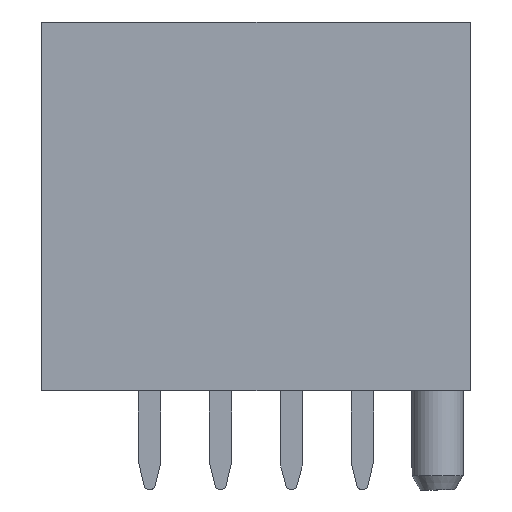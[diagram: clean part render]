
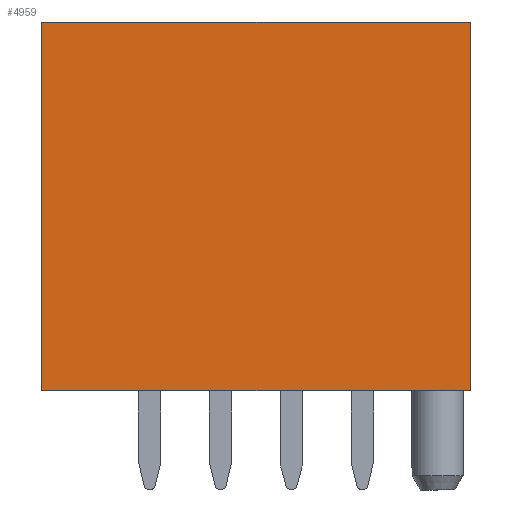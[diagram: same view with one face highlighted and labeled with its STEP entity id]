
A CAD part, left-side view. The second image highlights one B-rep face of the part: STEP entity #4959.
In plain terms, the highlighted planar face has unit normal (-1, 0, 0).
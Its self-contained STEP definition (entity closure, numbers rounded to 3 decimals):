
#36 = CARTESIAN_POINT ( 'NONE',  ( -8.65, 11.3, 0. ) ) ;
#122 = ORIENTED_EDGE ( 'NONE', *, *, #4715, .F. ) ;
#301 = CARTESIAN_POINT ( 'NONE',  ( -8.65, 11.2, 0. ) ) ;
#408 = ORIENTED_EDGE ( 'NONE', *, *, #4501, .F. ) ;
#1215 = AXIS2_PLACEMENT_3D ( 'NONE', #4678, #5300, #3319 ) ;
#1379 = VERTEX_POINT ( 'NONE', #2313 ) ;
#1543 = VERTEX_POINT ( 'NONE', #2292 ) ;
#1643 = FACE_OUTER_BOUND ( 'NONE', #1981, .T. ) ;
#1981 = EDGE_LOOP ( 'NONE', ( #408, #3752, #5448, #122 ) ) ;
#2143 = VECTOR ( 'NONE', #3266, 1000. ) ;
#2292 = CARTESIAN_POINT ( 'NONE',  ( -8.65, -3.8, 13. ) ) ;
#2313 = CARTESIAN_POINT ( 'NONE',  ( -8.65, -3.8, 0. ) ) ;
#2446 = CARTESIAN_POINT ( 'NONE',  ( -8.65, 11.3, 0. ) ) ;
#2485 = VECTOR ( 'NONE', #4271, 1000. ) ;
#2898 = LINE ( 'NONE', #2446, #2485 ) ;
#2966 = VECTOR ( 'NONE', #3519, 1000. ) ;
#3002 = CARTESIAN_POINT ( 'NONE',  ( -8.65, -3.7, 13. ) ) ;
#3096 = VERTEX_POINT ( 'NONE', #36 ) ;
#3236 = LINE ( 'NONE', #3751, #2143 ) ;
#3266 = DIRECTION ( 'NONE',  ( 0., 0., -1. ) ) ;
#3319 = DIRECTION ( 'NONE',  ( 0., 1., 0. ) ) ;
#3486 = PLANE ( 'NONE',  #1215 ) ;
#3519 = DIRECTION ( 'NONE',  ( 0., -1., 0. ) ) ;
#3751 = CARTESIAN_POINT ( 'NONE',  ( -8.65, -3.8, 0. ) ) ;
#3752 = ORIENTED_EDGE ( 'NONE', *, *, #5881, .F. ) ;
#3968 = DIRECTION ( 'NONE',  ( 0., 1., 0. ) ) ;
#4026 = VERTEX_POINT ( 'NONE', #4926 ) ;
#4271 = DIRECTION ( 'NONE',  ( 0., 0., 1. ) ) ;
#4428 = LINE ( 'NONE', #3002, #2966 ) ;
#4501 = EDGE_CURVE ( 'NONE', #1543, #1379, #3236, .T. ) ;
#4678 = CARTESIAN_POINT ( 'NONE',  ( -8.65, -3.7, 12.8 ) ) ;
#4715 = EDGE_CURVE ( 'NONE', #1379, #3096, #5741, .T. ) ;
#4926 = CARTESIAN_POINT ( 'NONE',  ( -8.65, 11.3, 13. ) ) ;
#4959 = ADVANCED_FACE ( 'NONE', ( #1643 ), #3486, .T. ) ;
#5274 = EDGE_CURVE ( 'NONE', #3096, #4026, #2898, .T. ) ;
#5300 = DIRECTION ( 'NONE',  ( -1., 0., 0. ) ) ;
#5413 = VECTOR ( 'NONE', #3968, 1000. ) ;
#5448 = ORIENTED_EDGE ( 'NONE', *, *, #5274, .F. ) ;
#5741 = LINE ( 'NONE', #301, #5413 ) ;
#5881 = EDGE_CURVE ( 'NONE', #4026, #1543, #4428, .T. ) ;
